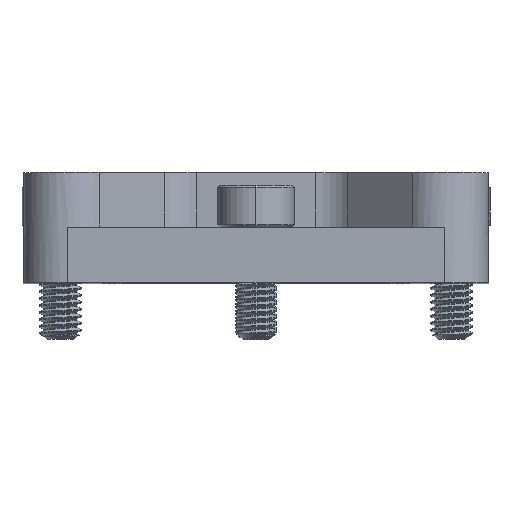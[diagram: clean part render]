
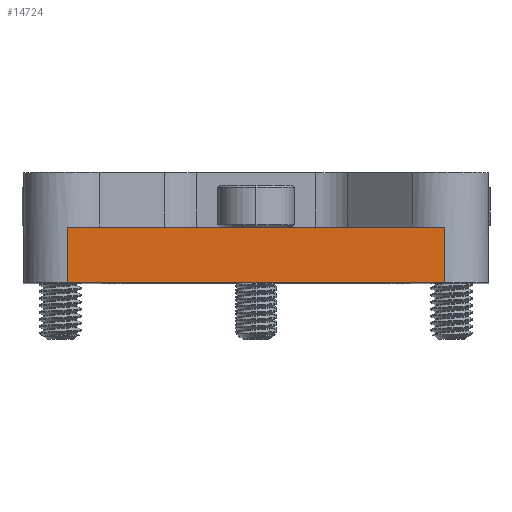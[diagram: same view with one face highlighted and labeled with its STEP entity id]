
A CAD part, top view. The second image highlights one B-rep face of the part: STEP entity #14724.
In plain terms, the highlighted planar face has unit normal (0, 0, 1).
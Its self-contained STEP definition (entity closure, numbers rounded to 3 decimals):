
#988 = DIRECTION ( 'NONE',  ( 0., 1., 0. ) ) ;
#2088 = CARTESIAN_POINT ( 'NONE',  ( -13.47, 4., 16.645 ) ) ;
#2200 = DIRECTION ( 'NONE',  ( 0., 0., 1. ) ) ;
#3465 = LINE ( 'NONE', #26115, #13060 ) ;
#4219 = CARTESIAN_POINT ( 'NONE',  ( 13.47, 4., 16.645 ) ) ;
#6866 = DIRECTION ( 'NONE',  ( -1., 0., 0. ) ) ;
#6881 = ORIENTED_EDGE ( 'NONE', *, *, #9280, .T. ) ;
#7529 = VECTOR ( 'NONE', #6866, 1000. ) ;
#8634 = ORIENTED_EDGE ( 'NONE', *, *, #12050, .F. ) ;
#9184 = CARTESIAN_POINT ( 'NONE',  ( 13.47, 0., 16.645 ) ) ;
#9280 = EDGE_CURVE ( 'NONE', #26192, #12648, #23299, .T. ) ;
#9857 = EDGE_LOOP ( 'NONE', ( #6881, #15435, #21803, #8634 ) ) ;
#9976 = FACE_OUTER_BOUND ( 'NONE', #9857, .T. ) ;
#10225 = PLANE ( 'NONE',  #11193 ) ;
#10814 = DIRECTION ( 'NONE',  ( 1., 0., 0. ) ) ;
#10835 = VERTEX_POINT ( 'NONE', #19110 ) ;
#11193 = AXIS2_PLACEMENT_3D ( 'NONE', #12443, #2200, #10814 ) ;
#12050 = EDGE_CURVE ( 'NONE', #26192, #10835, #25662, .T. ) ;
#12443 = CARTESIAN_POINT ( 'NONE',  ( 0., -6.773, 16.645 ) ) ;
#12648 = VERTEX_POINT ( 'NONE', #4219 ) ;
#12823 = VECTOR ( 'NONE', #24811, 1000. ) ;
#13060 = VECTOR ( 'NONE', #26214, 1000. ) ;
#14724 = ADVANCED_FACE ( 'NONE', ( #9976 ), #10225, .T. ) ;
#15435 = ORIENTED_EDGE ( 'NONE', *, *, #26155, .T. ) ;
#17430 = VECTOR ( 'NONE', #988, 1000. ) ;
#19110 = CARTESIAN_POINT ( 'NONE',  ( -13.47, 0., 16.645 ) ) ;
#19273 = LINE ( 'NONE', #20086, #7529 ) ;
#19601 = VERTEX_POINT ( 'NONE', #2088 ) ;
#20086 = CARTESIAN_POINT ( 'NONE',  ( -4.687, 4., 16.645 ) ) ;
#21803 = ORIENTED_EDGE ( 'NONE', *, *, #25896, .F. ) ;
#23129 = CARTESIAN_POINT ( 'NONE',  ( 13.47, -7.097, 16.645 ) ) ;
#23299 = LINE ( 'NONE', #23129, #17430 ) ;
#24811 = DIRECTION ( 'NONE',  ( -1., 0., 0. ) ) ;
#25662 = LINE ( 'NONE', #26951, #12823 ) ;
#25896 = EDGE_CURVE ( 'NONE', #10835, #19601, #3465, .T. ) ;
#26115 = CARTESIAN_POINT ( 'NONE',  ( -13.47, -7.097, 16.645 ) ) ;
#26155 = EDGE_CURVE ( 'NONE', #12648, #19601, #19273, .T. ) ;
#26192 = VERTEX_POINT ( 'NONE', #9184 ) ;
#26214 = DIRECTION ( 'NONE',  ( 0., 1., 0. ) ) ;
#26951 = CARTESIAN_POINT ( 'NONE',  ( 0., 0., 16.645 ) ) ;
